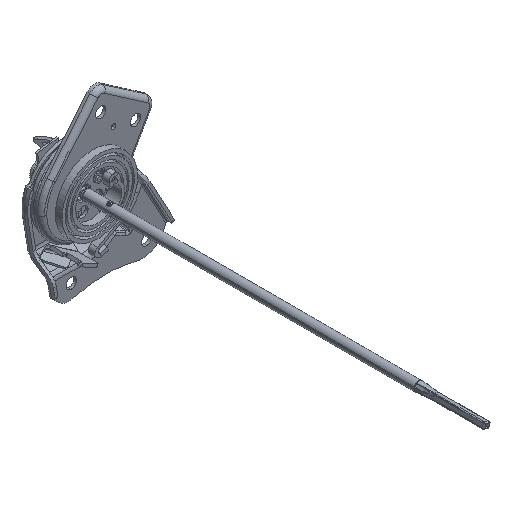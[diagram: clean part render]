
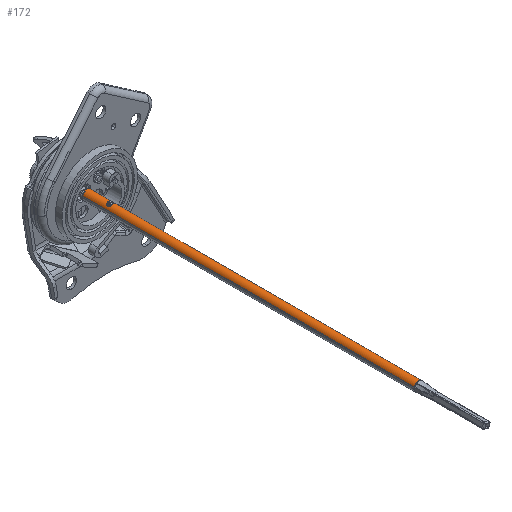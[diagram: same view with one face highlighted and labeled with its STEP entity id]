
A CAD part, isometric view. The second image highlights one B-rep face of the part: STEP entity #172.
In plain terms, the highlighted cylindrical face has radius 5 mm (diameter 10 mm), a partial arc.
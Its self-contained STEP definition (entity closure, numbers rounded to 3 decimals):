
#44=AXIS2_PLACEMENT_3D('Cylinder Axis2P3D',#41,#42,#43) ;
#83=AXIS2_PLACEMENT_3D('Circle Axis2P3D',#81,#82,$) ;
#90=AXIS2_PLACEMENT_3D('Circle Axis2P3D',#88,#89,$) ;
#97=AXIS2_PLACEMENT_3D('Circle Axis2P3D',#95,#96,$) ;
#41=CARTESIAN_POINT('Axis2P3D Location',(669.194,-702.521,471.257)) ;
#46=CARTESIAN_POINT('Line Origine',(674.012,-702.514,469.921)) ;
#50=CARTESIAN_POINT('Vertex',(673.737,-525.526,469.92)) ;
#52=CARTESIAN_POINT('Vertex',(674.285,-878.282,469.921)) ;
#56=CARTESIAN_POINT('Control Point',(673.737,-525.526,469.92)) ;
#57=CARTESIAN_POINT('Control Point',(673.947,-525.525,470.677)) ;
#58=CARTESIAN_POINT('Control Point',(674.008,-525.525,471.475)) ;
#59=CARTESIAN_POINT('Control Point',(673.91,-525.525,472.275)) ;
#60=CARTESIAN_POINT('Control Point',(673.405,-525.526,473.794)) ;
#61=CARTESIAN_POINT('Control Point',(672.363,-525.528,475.01)) ;
#62=CARTESIAN_POINT('Control Point',(671.728,-525.529,475.506)) ;
#63=CARTESIAN_POINT('Control Point',(670.296,-525.531,476.223)) ;
#64=CARTESIAN_POINT('Control Point',(668.7,-525.533,476.346)) ;
#65=CARTESIAN_POINT('Control Point',(667.9,-525.535,476.248)) ;
#66=CARTESIAN_POINT('Control Point',(666.381,-525.537,475.743)) ;
#67=CARTESIAN_POINT('Control Point',(665.166,-525.539,474.701)) ;
#68=CARTESIAN_POINT('Control Point',(664.669,-525.54,474.065)) ;
#69=CARTESIAN_POINT('Control Point',(664.311,-525.54,473.35)) ;
#70=CARTESIAN_POINT('Control Point',(664.101,-525.541,472.593)) ;
#71=CARTESIAN_POINT('Vertex',(664.101,-525.541,472.593)) ;
#74=CARTESIAN_POINT('Line Origine',(664.376,-702.529,472.593)) ;
#78=CARTESIAN_POINT('Vertex',(664.648,-878.297,472.594)) ;
#81=CARTESIAN_POINT('Axis2P3D Location',(669.467,-878.29,471.258)) ;
#85=CARTESIAN_POINT('Vertex',(667.005,-878.294,475.609)) ;
#88=CARTESIAN_POINT('Axis2P3D Location',(669.467,-878.29,471.258)) ;
#92=CARTESIAN_POINT('Vertex',(673.818,-878.283,473.72)) ;
#95=CARTESIAN_POINT('Axis2P3D Location',(669.467,-878.29,471.258)) ;
#109=CARTESIAN_POINT('Control Point',(667.618,-548.604,476.075)) ;
#110=CARTESIAN_POINT('Control Point',(667.326,-548.714,475.993)) ;
#111=CARTESIAN_POINT('Control Point',(667.046,-548.849,475.892)) ;
#112=CARTESIAN_POINT('Control Point',(666.786,-549.015,475.774)) ;
#113=CARTESIAN_POINT('Control Point',(666.414,-549.345,475.572)) ;
#114=CARTESIAN_POINT('Control Point',(666.15,-549.776,475.397)) ;
#115=CARTESIAN_POINT('Control Point',(666.069,-549.953,475.339)) ;
#116=CARTESIAN_POINT('Control Point',(665.89,-550.516,475.207)) ;
#117=CARTESIAN_POINT('Control Point',(665.916,-551.138,475.222)) ;
#118=CARTESIAN_POINT('Control Point',(666.039,-551.53,475.323)) ;
#119=CARTESIAN_POINT('Control Point',(666.381,-552.097,475.559)) ;
#120=CARTESIAN_POINT('Control Point',(666.884,-552.494,475.815)) ;
#121=CARTESIAN_POINT('Control Point',(667.118,-552.634,475.915)) ;
#122=CARTESIAN_POINT('Control Point',(667.366,-552.75,476.003)) ;
#123=CARTESIAN_POINT('Control Point',(667.625,-552.846,476.075)) ;
#124=CARTESIAN_POINT('Vertex',(667.618,-548.604,476.075)) ;
#126=CARTESIAN_POINT('Vertex',(667.625,-552.846,476.075)) ;
#130=CARTESIAN_POINT('Control Point',(672.582,-548.596,474.698)) ;
#131=CARTESIAN_POINT('Control Point',(671.87,-548.224,475.448)) ;
#132=CARTESIAN_POINT('Control Point',(670.929,-547.986,476.064)) ;
#133=CARTESIAN_POINT('Control Point',(669.739,-547.988,476.395)) ;
#134=CARTESIAN_POINT('Control Point',(668.614,-548.229,476.351)) ;
#135=CARTESIAN_POINT('Control Point',(667.618,-548.604,476.075)) ;
#136=CARTESIAN_POINT('Vertex',(672.582,-548.596,474.698)) ;
#140=CARTESIAN_POINT('Control Point',(672.588,-552.839,474.698)) ;
#141=CARTESIAN_POINT('Control Point',(672.798,-552.729,474.477)) ;
#142=CARTESIAN_POINT('Control Point',(672.985,-552.594,474.246)) ;
#143=CARTESIAN_POINT('Control Point',(673.147,-552.428,474.011)) ;
#144=CARTESIAN_POINT('Control Point',(673.361,-552.098,473.646)) ;
#145=CARTESIAN_POINT('Control Point',(673.498,-551.668,473.36)) ;
#146=CARTESIAN_POINT('Control Point',(673.538,-551.49,473.268)) ;
#147=CARTESIAN_POINT('Control Point',(673.623,-550.928,473.063)) ;
#148=CARTESIAN_POINT('Control Point',(673.608,-550.306,473.089)) ;
#149=CARTESIAN_POINT('Control Point',(673.555,-549.913,473.238)) ;
#150=CARTESIAN_POINT('Control Point',(673.383,-549.347,473.616)) ;
#151=CARTESIAN_POINT('Control Point',(673.083,-548.949,474.094)) ;
#152=CARTESIAN_POINT('Control Point',(672.935,-548.809,474.3)) ;
#153=CARTESIAN_POINT('Control Point',(672.767,-548.693,474.503)) ;
#154=CARTESIAN_POINT('Control Point',(672.582,-548.596,474.698)) ;
#155=CARTESIAN_POINT('Vertex',(672.588,-552.839,474.698)) ;
#159=CARTESIAN_POINT('Control Point',(667.625,-552.846,476.075)) ;
#160=CARTESIAN_POINT('Control Point',(668.622,-553.218,476.351)) ;
#161=CARTESIAN_POINT('Control Point',(669.746,-553.456,476.395)) ;
#162=CARTESIAN_POINT('Control Point',(670.936,-553.454,476.065)) ;
#163=CARTESIAN_POINT('Control Point',(671.877,-553.213,475.448)) ;
#164=CARTESIAN_POINT('Control Point',(672.588,-552.839,474.698)) ;
#42=DIRECTION('Axis2P3D Direction',(0.002,-1.,0.)) ;
#43=DIRECTION('Axis2P3D XDirection',(0.964,0.001,-0.267)) ;
#47=DIRECTION('Vector Direction',(0.002,-1.,0.)) ;
#75=DIRECTION('Vector Direction',(0.002,-1.,0.)) ;
#82=DIRECTION('Axis2P3D Direction',(0.002,-1.,0.)) ;
#89=DIRECTION('Axis2P3D Direction',(0.002,-1.,0.)) ;
#96=DIRECTION('Axis2P3D Direction',(0.002,-1.,0.)) ;
#48=VECTOR('Line Direction',#47,1.) ;
#76=VECTOR('Line Direction',#75,1.) ;
#101=ORIENTED_EDGE('',*,*,#54,.F.) ;
#102=ORIENTED_EDGE('',*,*,#73,.T.) ;
#103=ORIENTED_EDGE('',*,*,#80,.T.) ;
#104=ORIENTED_EDGE('',*,*,#87,.F.) ;
#105=ORIENTED_EDGE('',*,*,#94,.F.) ;
#106=ORIENTED_EDGE('',*,*,#99,.F.) ;
#167=ORIENTED_EDGE('',*,*,#128,.F.) ;
#168=ORIENTED_EDGE('',*,*,#138,.F.) ;
#169=ORIENTED_EDGE('',*,*,#157,.F.) ;
#170=ORIENTED_EDGE('',*,*,#165,.F.) ;
#171=FACE_BOUND('',#166,.T.) ;
#172=ADVANCED_FACE('\X2\51E04F554F53\X0\.2',(#107,#171),#45,.T.) ;
#55=B_SPLINE_CURVE_WITH_KNOTS('',5,(#56,#57,#58,#59,#60,#61,#62,#63,#64,#65,#66,#67,#68,#69,#70),.UNSPECIFIED.,.F.,.U.,(6,3,3,3,6),(-7.854,-3.927,0.,3.927,7.854),.UNSPECIFIED.) ;
#108=B_SPLINE_CURVE_WITH_KNOTS('',5,(#109,#110,#111,#112,#113,#114,#115,#116,#117,#118,#119,#120,#121,#122,#123),.UNSPECIFIED.,.F.,.U.,(6,3,3,3,6),(0.,2.335,3.754,6.555,8.616),.UNSPECIFIED.) ;
#129=B_SPLINE_CURVE_WITH_KNOTS('',5,(#130,#131,#132,#133,#134,#135),.UNSPECIFIED.,.F.,.U.,(6,6),(0.,7.859),.UNSPECIFIED.) ;
#139=B_SPLINE_CURVE_WITH_KNOTS('',5,(#140,#141,#142,#143,#144,#145,#146,#147,#148,#149,#150,#151,#152,#153,#154),.UNSPECIFIED.,.F.,.U.,(6,3,3,3,6),(0.,2.335,3.754,6.555,8.616),.UNSPECIFIED.) ;
#158=B_SPLINE_CURVE_WITH_KNOTS('',5,(#159,#160,#161,#162,#163,#164),.UNSPECIFIED.,.F.,.U.,(6,6),(0.,7.856),.UNSPECIFIED.) ;
#84=CIRCLE('generated circle',#83,5.) ;
#91=CIRCLE('generated circle',#90,5.) ;
#98=CIRCLE('generated circle',#97,5.) ;
#45=CYLINDRICAL_SURFACE('generated cylinder',#44,5.) ;
#54=EDGE_CURVE('',#51,#53,#49,.T.) ;
#73=EDGE_CURVE('',#51,#72,#55,.T.) ;
#80=EDGE_CURVE('',#72,#79,#77,.T.) ;
#87=EDGE_CURVE('',#86,#79,#84,.T.) ;
#94=EDGE_CURVE('',#93,#86,#91,.T.) ;
#99=EDGE_CURVE('',#53,#93,#98,.T.) ;
#128=EDGE_CURVE('',#125,#127,#108,.T.) ;
#138=EDGE_CURVE('',#137,#125,#129,.T.) ;
#157=EDGE_CURVE('',#156,#137,#139,.T.) ;
#165=EDGE_CURVE('',#127,#156,#158,.T.) ;
#100=EDGE_LOOP('',(#101,#102,#103,#104,#105,#106)) ;
#166=EDGE_LOOP('',(#167,#168,#169,#170)) ;
#107=FACE_OUTER_BOUND('',#100,.T.) ;
#49=LINE('Line',#46,#48) ;
#77=LINE('Line',#74,#76) ;
#51=VERTEX_POINT('',#50) ;
#53=VERTEX_POINT('',#52) ;
#72=VERTEX_POINT('',#71) ;
#79=VERTEX_POINT('',#78) ;
#86=VERTEX_POINT('',#85) ;
#93=VERTEX_POINT('',#92) ;
#125=VERTEX_POINT('',#124) ;
#127=VERTEX_POINT('',#126) ;
#137=VERTEX_POINT('',#136) ;
#156=VERTEX_POINT('',#155) ;
